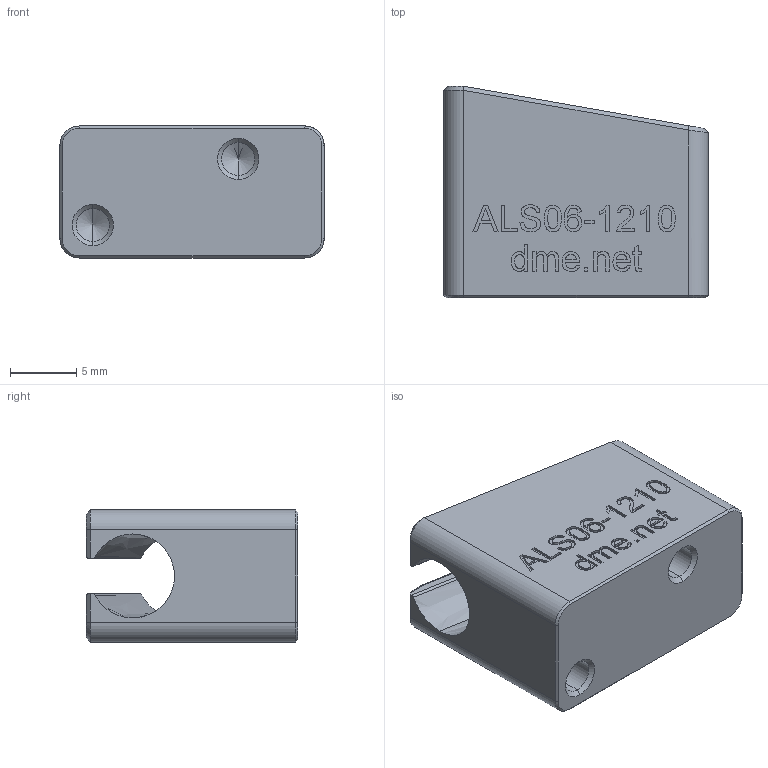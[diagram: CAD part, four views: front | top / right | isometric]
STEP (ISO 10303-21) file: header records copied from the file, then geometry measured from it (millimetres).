
FILE_DESCRIPTION (( 'STEP AP203' ), '1' );
FILE_NAME ('ALS06-1210.STEP', '2021-01-08T19:01:05', ( '' ), ( '' ), 'SwSTEP 2.0', 'SolidWorks 2020', '' );
FILE_SCHEMA (( 'CONFIG_CONTROL_DESIGN' ));
Length unit declared in the file: millimetre
Products named in the file (1): ALS06-1210
Bounding box: 20 x 16 x 10 mm (x, y, z)
Volume: 2142.1 mm3; surface area: 1567.6 mm2
Topology: 1 solids, 1 shells, 271 faces, 709 edges, 462 vertices
Faces by surface type: plane 129, bspline 114, cone 14, cylinder 14
Entity records: 14368 total; most frequent: CARTESIAN_POINT 8461, ORIENTED_EDGE 1410, DIRECTION 801, EDGE_CURVE 705, VERTEX_POINT 462, LINE 437, VECTOR 437, EDGE_LOOP 297
